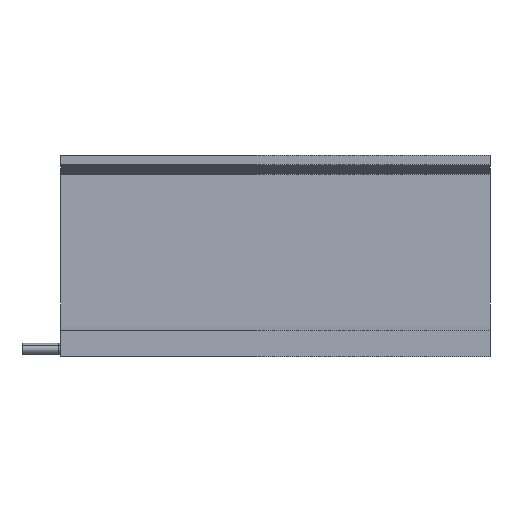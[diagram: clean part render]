
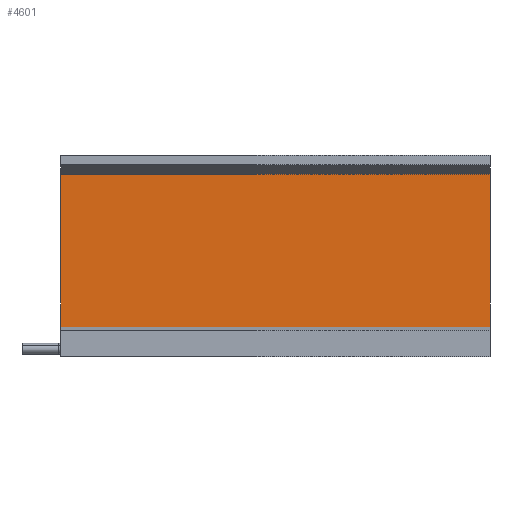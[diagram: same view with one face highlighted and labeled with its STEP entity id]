
A CAD part, left-side view. The second image highlights one B-rep face of the part: STEP entity #4601.
In plain terms, the highlighted planar face has unit normal (-1, 0, 0) as drawn and (1, 0, 0) by its records, which use the part's own axes.
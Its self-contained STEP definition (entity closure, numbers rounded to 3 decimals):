
#142 = DIRECTION ( 'NONE',  ( -1., 0., 0. ) ) ;
#170 = DIRECTION ( 'NONE',  ( 0., 0., -1. ) ) ;
#194 = DIRECTION ( 'NONE',  ( 0., 1., 0. ) ) ;
#272 = VECTOR ( 'NONE', #4195, 1000. ) ;
#568 = PLANE ( 'NONE',  #3829 ) ;
#752 = CARTESIAN_POINT ( 'NONE',  ( 21.35, 17.11, 385. ) ) ;
#834 = DIRECTION ( 'NONE',  ( 0., 0., -1. ) ) ;
#1002 = ORIENTED_EDGE ( 'NONE', *, *, #2449, .T. ) ;
#1027 = ORIENTED_EDGE ( 'NONE', *, *, #1772, .F. ) ;
#1092 = LINE ( 'NONE', #2648, #272 ) ;
#1636 = CARTESIAN_POINT ( 'NONE',  ( 21.35, 17.11, 385. ) ) ;
#1737 = CARTESIAN_POINT ( 'NONE',  ( 21.35, 17.11, 385. ) ) ;
#1738 = CARTESIAN_POINT ( 'NONE',  ( 21.35, 154.11, 385. ) ) ;
#1772 = EDGE_CURVE ( 'NONE', #3759, #1982, #4257, .T. ) ;
#1982 = VERTEX_POINT ( 'NONE', #2187 ) ;
#1997 = VECTOR ( 'NONE', #194, 1000. ) ;
#2142 = ORIENTED_EDGE ( 'NONE', *, *, #2629, .T. ) ;
#2187 = CARTESIAN_POINT ( 'NONE',  ( 21.35, 154.11, 0. ) ) ;
#2272 = CARTESIAN_POINT ( 'NONE',  ( 21.35, 154.11, 385. ) ) ;
#2388 = EDGE_CURVE ( 'NONE', #3030, #3759, #4497, .T. ) ;
#2449 = EDGE_CURVE ( 'NONE', #3030, #2549, #4900, .T. ) ;
#2549 = VERTEX_POINT ( 'NONE', #4924 ) ;
#2629 = EDGE_CURVE ( 'NONE', #2549, #1982, #1092, .T. ) ;
#2648 = CARTESIAN_POINT ( 'NONE',  ( 21.35, 17.11, 0. ) ) ;
#2889 = VECTOR ( 'NONE', #170, 1000. ) ;
#2938 = EDGE_LOOP ( 'NONE', ( #2142, #1027, #3304, #1002 ) ) ;
#3030 = VERTEX_POINT ( 'NONE', #752 ) ;
#3213 = DIRECTION ( 'NONE',  ( 0., 0., 1. ) ) ;
#3304 = ORIENTED_EDGE ( 'NONE', *, *, #2388, .F. ) ;
#3759 = VERTEX_POINT ( 'NONE', #1738 ) ;
#3829 = AXIS2_PLACEMENT_3D ( 'NONE', #1636, #142, #3213 ) ;
#4048 = FACE_OUTER_BOUND ( 'NONE', #2938, .T. ) ;
#4195 = DIRECTION ( 'NONE',  ( 0., 1., 0. ) ) ;
#4257 = LINE ( 'NONE', #2272, #4381 ) ;
#4381 = VECTOR ( 'NONE', #834, 1000. ) ;
#4497 = LINE ( 'NONE', #1737, #1997 ) ;
#4601 = ADVANCED_FACE ( 'NONE', ( #4048 ), #568, .F. ) ;
#4828 = CARTESIAN_POINT ( 'NONE',  ( 21.35, 17.11, 385. ) ) ;
#4900 = LINE ( 'NONE', #4828, #2889 ) ;
#4924 = CARTESIAN_POINT ( 'NONE',  ( 21.35, 17.11, 0. ) ) ;
